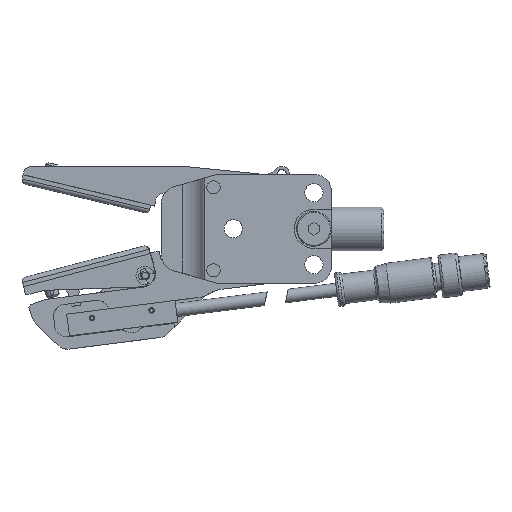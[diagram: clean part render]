
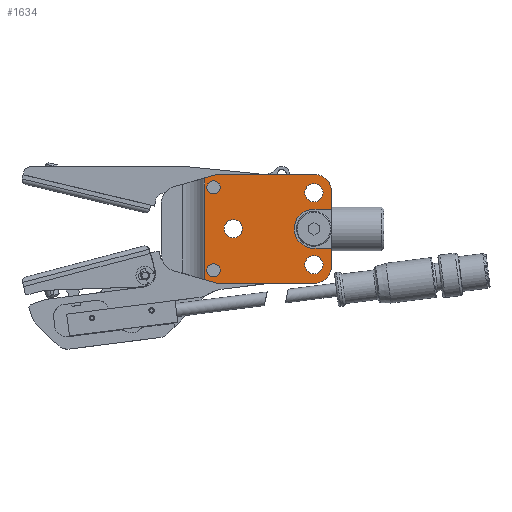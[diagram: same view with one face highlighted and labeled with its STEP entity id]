
A CAD part, top view. The second image highlights one B-rep face of the part: STEP entity #1634.
In plain terms, the highlighted planar face has unit normal (0, 0, 1).
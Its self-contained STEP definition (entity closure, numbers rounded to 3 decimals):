
#1634=ADVANCED_FACE('',(#3056,#3057,#3058,#3059,#3060,#3061),#3062,.T.);
#3056=FACE_BOUND('',#4444,.T.);
#3057=FACE_BOUND('',#4445,.T.);
#3058=FACE_BOUND('',#4446,.T.);
#3059=FACE_BOUND('',#4447,.T.);
#3060=FACE_BOUND('',#4448,.T.);
#3061=FACE_OUTER_BOUND('',#4449,.T.);
#3062=PLANE('',#4450);
#4444=EDGE_LOOP('',(#7691));
#4445=EDGE_LOOP('',(#7692));
#4446=EDGE_LOOP('',(#7693));
#4447=EDGE_LOOP('',(#7694));
#4448=EDGE_LOOP('',(#7695));
#4449=EDGE_LOOP('',(#7696,#7697,#7698,#7699,#7700,#7701,#7702,#7703,#7704,#7705,#7706,#7707));
#4450=AXIS2_PLACEMENT_3D('',#7708,#7709,#7710);
#7691=ORIENTED_EDGE('',*,*,#9127,.F.);
#7692=ORIENTED_EDGE('',*,*,#9130,.F.);
#7693=ORIENTED_EDGE('',*,*,#9133,.F.);
#7694=ORIENTED_EDGE('',*,*,#9139,.F.);
#7695=ORIENTED_EDGE('',*,*,#9141,.F.);
#7696=ORIENTED_EDGE('',*,*,#9238,.F.);
#7697=ORIENTED_EDGE('',*,*,#9239,.T.);
#7698=ORIENTED_EDGE('',*,*,#9240,.F.);
#7699=ORIENTED_EDGE('',*,*,#9241,.T.);
#7700=ORIENTED_EDGE('',*,*,#9242,.T.);
#7701=ORIENTED_EDGE('',*,*,#9227,.F.);
#7702=ORIENTED_EDGE('',*,*,#9153,.F.);
#7703=ORIENTED_EDGE('',*,*,#9157,.F.);
#7704=ORIENTED_EDGE('',*,*,#9149,.F.);
#7705=ORIENTED_EDGE('',*,*,#9226,.F.);
#7706=ORIENTED_EDGE('',*,*,#9243,.T.);
#7707=ORIENTED_EDGE('',*,*,#9244,.T.);
#7708=CARTESIAN_POINT('',(0.0,0.0,7.5));
#7709=DIRECTION('',(0.0,0.0,1.0));
#7710=DIRECTION('',(1.0,0.0,0.0));
#9127=EDGE_CURVE('',#11006,#11006,#11007,.T.);
#9130=EDGE_CURVE('',#11011,#11011,#11012,.T.);
#9133=EDGE_CURVE('',#11016,#11016,#11017,.T.);
#9139=EDGE_CURVE('',#11025,#11025,#11026,.T.);
#9141=EDGE_CURVE('',#11028,#11028,#11029,.T.);
#9149=EDGE_CURVE('',#11041,#11042,#11043,.T.);
#9153=EDGE_CURVE('',#11047,#11048,#11049,.T.);
#9157=EDGE_CURVE('',#11042,#11047,#11053,.T.);
#9226=EDGE_CURVE('',#11168,#11041,#11170,.T.);
#9227=EDGE_CURVE('',#11048,#11171,#11172,.T.);
#9238=EDGE_CURVE('',#11189,#11190,#11191,.T.);
#9239=EDGE_CURVE('',#11189,#11192,#11193,.F.);
#9240=EDGE_CURVE('',#11194,#11192,#11195,.T.);
#9241=EDGE_CURVE('',#11194,#11196,#11197,.T.);
#9242=EDGE_CURVE('',#11196,#11171,#11198,.T.);
#9243=EDGE_CURVE('',#11168,#11199,#11200,.T.);
#9244=EDGE_CURVE('',#11199,#11190,#11201,.T.);
#11006=VERTEX_POINT('',#13750);
#11007=CIRCLE('',#13751,2.1);
#11011=VERTEX_POINT('',#13755);
#11012=CIRCLE('',#13756,2.1);
#11016=VERTEX_POINT('',#13760);
#11017=CIRCLE('',#13761,2.1);
#11025=VERTEX_POINT('',#13769);
#11026=CIRCLE('',#13770,1.525);
#11028=VERTEX_POINT('',#13772);
#11029=CIRCLE('',#13773,1.525);
#11041=VERTEX_POINT('',#13789);
#11042=VERTEX_POINT('',#13790);
#11043=LINE('',#13791,#13792);
#11047=VERTEX_POINT('',#13798);
#11048=VERTEX_POINT('',#13799);
#11049=LINE('',#13800,#13801);
#11053=CIRCLE('',#13807,4.5);
#11168=VERTEX_POINT('',#13959);
#11170=LINE('',#13962,#13963);
#11171=VERTEX_POINT('',#13964);
#11172=LINE('',#13965,#13966);
#11189=VERTEX_POINT('',#13989);
#11190=VERTEX_POINT('',#13990);
#11191=LINE('',#13991,#13992);
#11192=VERTEX_POINT('',#13993);
#11193=LINE('',#13994,#13995);
#11194=VERTEX_POINT('',#13996);
#11195=LINE('',#13997,#13998);
#11196=VERTEX_POINT('',#13999);
#11197=LINE('',#14000,#14001);
#11198=CIRCLE('',#14002,4.0);
#11199=VERTEX_POINT('',#14003);
#11200=CIRCLE('',#14004,4.0);
#11201=LINE('',#14005,#14006);
#13750=CARTESIAN_POINT('',(12.1,8.25,7.5));
#13751=AXIS2_PLACEMENT_3D('',#15434,#15435,#15436);
#13755=CARTESIAN_POINT('',(12.1,-8.25,7.5));
#13756=AXIS2_PLACEMENT_3D('',#15440,#15441,#15442);
#13760=CARTESIAN_POINT('',(-6.4,0.,7.5));
#13761=AXIS2_PLACEMENT_3D('',#15446,#15447,#15448);
#13769=CARTESIAN_POINT('',(-11.475,-9.5,7.5));
#13770=AXIS2_PLACEMENT_3D('',#15455,#15456,#15457);
#13772=CARTESIAN_POINT('',(-11.475,9.5,7.5));
#13773=AXIS2_PLACEMENT_3D('',#15458,#15459,#15460);
#13789=CARTESIAN_POINT('',(14.0,4.5,7.5));
#13790=CARTESIAN_POINT('',(10.0,4.5,7.5));
#13791=CARTESIAN_POINT('',(10.0,4.5,7.5));
#13792=VECTOR('',#15468,1.0);
#13798=CARTESIAN_POINT('',(10.0,-4.5,7.5));
#13799=CARTESIAN_POINT('',(14.0,-4.5,7.5));
#13800=CARTESIAN_POINT('',(10.0,-4.5,7.5));
#13801=VECTOR('',#15471,1.0);
#13807=AXIS2_PLACEMENT_3D('',#15474,#15475,#15476);
#13959=CARTESIAN_POINT('',(14.0,8.5,7.5));
#13962=CARTESIAN_POINT('',(14.0,12.5,7.5));
#13963=VECTOR('',#15569,1.0);
#13964=CARTESIAN_POINT('',(14.0,-8.5,7.5));
#13965=CARTESIAN_POINT('',(14.0,12.5,7.5));
#13966=VECTOR('',#15570,1.0);
#13989=CARTESIAN_POINT('',(-14.997,11.641,7.5));
#13990=CARTESIAN_POINT('',(-12.0,12.5,7.5));
#13991=CARTESIAN_POINT('',(-26.0,8.486,7.5));
#13992=VECTOR('',#15583,1.0);
#13993=CARTESIAN_POINT('',(-14.997,-11.641,7.5));
#13994=CARTESIAN_POINT('',(-14.997,-11.57,7.5));
#13995=VECTOR('',#15584,1.0);
#13996=CARTESIAN_POINT('',(-12.0,-12.5,7.5));
#13997=CARTESIAN_POINT('',(-26.0,-8.486,7.5));
#13998=VECTOR('',#15585,1.0);
#13999=CARTESIAN_POINT('',(10.0,-12.5,7.5));
#14000=CARTESIAN_POINT('',(-26.0,-12.5,7.5));
#14001=VECTOR('',#15586,1.0);
#14002=AXIS2_PLACEMENT_3D('',#15587,#15588,#15589);
#14003=CARTESIAN_POINT('',(10.0,12.5,7.5));
#14004=AXIS2_PLACEMENT_3D('',#15590,#15591,#15592);
#14005=CARTESIAN_POINT('',(-26.0,12.5,7.5));
#14006=VECTOR('',#15593,1.0);
#15434=CARTESIAN_POINT('',(10.0,8.25,7.5));
#15435=DIRECTION('',(0.0,0.0,1.0));
#15436=DIRECTION('',(1.0,0.0,0.0));
#15440=CARTESIAN_POINT('',(10.0,-8.25,7.5));
#15441=DIRECTION('',(0.0,0.0,1.0));
#15442=DIRECTION('',(1.0,0.0,0.0));
#15446=CARTESIAN_POINT('',(-8.5,0.,7.5));
#15447=DIRECTION('',(0.0,0.0,1.0));
#15448=DIRECTION('',(1.0,0.0,0.0));
#15455=CARTESIAN_POINT('',(-13.0,-9.5,7.5));
#15456=DIRECTION('',(0.0,0.0,1.0));
#15457=DIRECTION('',(1.0,0.0,0.0));
#15458=CARTESIAN_POINT('',(-13.0,9.5,7.5));
#15459=DIRECTION('',(0.0,0.0,1.0));
#15460=DIRECTION('',(1.0,0.0,0.0));
#15468=DIRECTION('',(-1.0,0.0,0.0));
#15471=DIRECTION('',(1.0,0.0,0.0));
#15474=CARTESIAN_POINT('',(10.0,0.0,7.5));
#15475=DIRECTION('',(0.0,0.0,1.0));
#15476=DIRECTION('',(1.0,0.0,0.0));
#15569=DIRECTION('',(0.,-1.0,0.));
#15570=DIRECTION('',(0.,-1.0,0.));
#15583=DIRECTION('',(0.961,0.276,0.0));
#15584=DIRECTION('',(0.0,1.0,0.0));
#15585=DIRECTION('',(-0.961,0.276,0.0));
#15586=DIRECTION('',(1.0,0.0,0.0));
#15587=CARTESIAN_POINT('',(10.0,-8.5,7.5));
#15588=DIRECTION('',(0.0,0.0,1.0));
#15589=DIRECTION('',(1.0,0.0,0.0));
#15590=CARTESIAN_POINT('',(10.0,8.5,7.5));
#15591=DIRECTION('',(0.0,0.0,1.0));
#15592=DIRECTION('',(1.0,0.0,0.0));
#15593=DIRECTION('',(-1.0,0.0,0.0));
